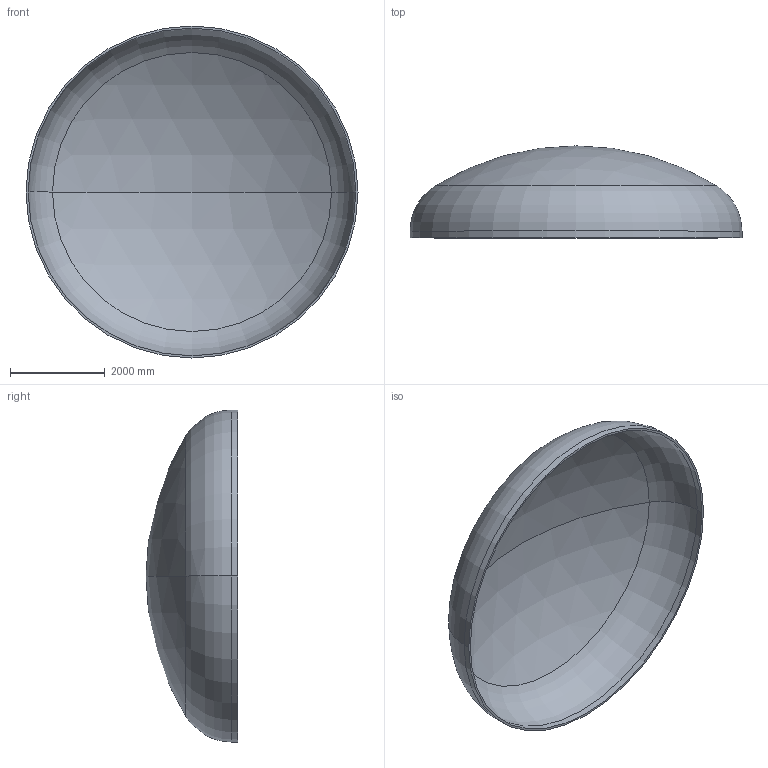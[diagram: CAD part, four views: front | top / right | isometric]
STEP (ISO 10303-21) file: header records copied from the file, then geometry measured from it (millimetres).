
FILE_DESCRIPTION (( 'STEP AP203' ), '1' );
FILE_NAME ('DIN 28013 Korbbogenform_-_Boden DIN 28013 - 7000 x 140 - I - s=46.step', '2016-07-04T10:47:41', ( '' ), ( '' ), 'SwSTEP 2.0', 'SolidWorks 2013', '' );
FILE_SCHEMA (( 'CONFIG_CONTROL_DESIGN' ));
Length unit declared in the file: millimetre
Products named in the file (1): DIN 28013 Korbbogenform_-_Boden DIN 28013 - 7000 x 140 - I - s=46
Bounding box: 7000 x 1939.63 x 7000 mm (x, y, z)
Volume: 2572225339.8 mm3; surface area: 112845218.1 mm2
Topology: 1 solids, 1 shells, 13 faces, 24 edges, 14 vertices
Faces by surface type: torus 4, cylinder 4, sphere 4, plane 1
Entity records: 407 total; most frequent: DIRECTION 72, CARTESIAN_POINT 52, ORIENTED_EDGE 48, AXIS2_PLACEMENT_3D 34, EDGE_CURVE 24, CIRCLE 20, VERTEX_POINT 14, EDGE_LOOP 14
